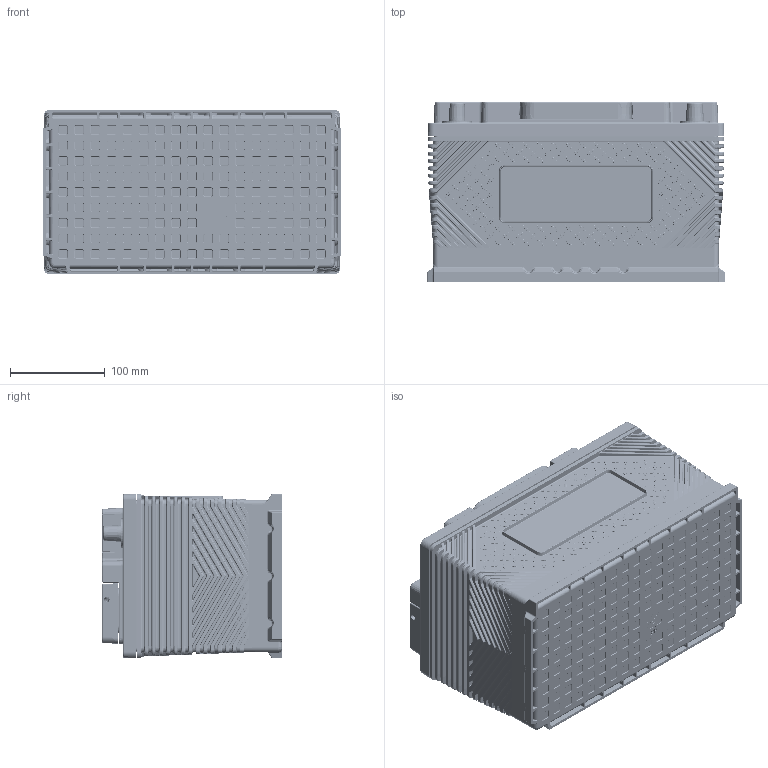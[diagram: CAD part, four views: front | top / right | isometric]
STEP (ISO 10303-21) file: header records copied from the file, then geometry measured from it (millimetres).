
FILE_DESCRIPTION (( 'STEP AP203' ), '1' );
FILE_NAME ('ODP-AGM94R.STEP', '2024-02-26T20:24:17', ( '' ), ( '' ), 'SwSTEP 2.0', 'SolidWorks 2022', '' );
FILE_SCHEMA (( 'CONFIG_CONTROL_DESIGN' ));
Length unit declared in the file: inch
Products named in the file (1): ODP-AGM94R
Bounding box: 314.25 x 189.71 x 173.98 mm (x, y, z)
Volume: 1627366.8 mm3; surface area: 1045217.2 mm2
Topology: 8 solids, 8 shells, 16276 faces, 38465 edges, 22267 vertices
Faces by surface type: cylinder 5825, torus 3424, plane 3250, bspline 2100, cone 1339, sphere 338
Full cylindrical faces by diameter (mm): 9.779 x2, 14.935 x2, 17.983 x2, 18.059 x6, 18.542 x16, 21.031 x2, 21.336 x16, 25.4 x4
Entity records: 529619 total; most frequent: CARTESIAN_POINT 170173, DIRECTION 77867, ORIENTED_EDGE 75620, EDGE_CURVE 37810, AXIS2_PLACEMENT_3D 31229, VERTEX_POINT 22160, CIRCLE 17052, EDGE_LOOP 16922
